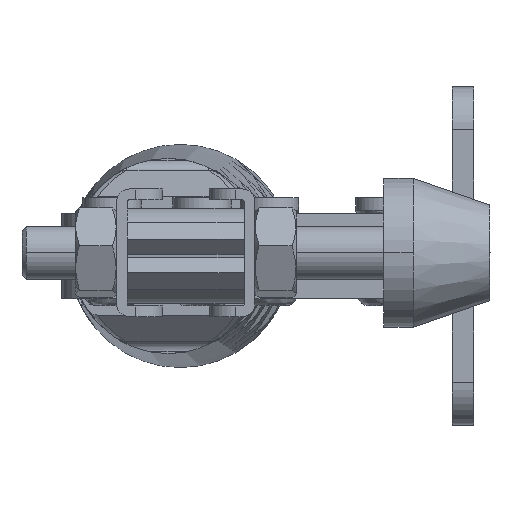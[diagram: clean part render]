
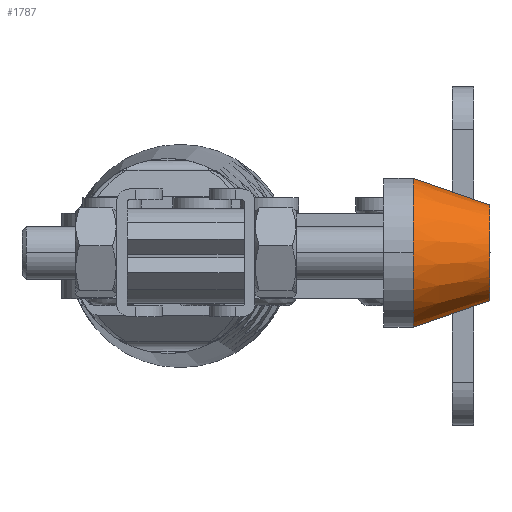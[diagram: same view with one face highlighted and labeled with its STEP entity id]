
A CAD part, left-side view. The second image highlights one B-rep face of the part: STEP entity #1787.
In plain terms, the highlighted conical face has half-angle 19.148 degrees and reference radius 7 mm.
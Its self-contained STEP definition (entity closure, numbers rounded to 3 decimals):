
#89 = DIRECTION ( 'NONE',  ( -1., 0., 0. ) ) ;
#144 = CARTESIAN_POINT ( 'NONE',  ( -7.2, 0., 0. ) ) ;
#684 = CARTESIAN_POINT ( 'NONE',  ( 0., 0., 0. ) ) ;
#737 = AXIS2_PLACEMENT_3D ( 'NONE', #13382, #89, #2826 ) ;
#886 = ORIENTED_EDGE ( 'NONE', *, *, #10159, .F. ) ;
#1077 = AXIS2_PLACEMENT_3D ( 'NONE', #684, #6595, #11154 ) ;
#1166 = VERTEX_POINT ( 'NONE', #5223 ) ;
#1787 = ADVANCED_FACE ( 'NONE', ( #8981 ), #14810, .T. ) ;
#1795 = DIRECTION ( 'NONE',  ( 0., 0., 1. ) ) ;
#1815 = CARTESIAN_POINT ( 'NONE',  ( 0., 0., 4.5 ) ) ;
#2388 = CARTESIAN_POINT ( 'NONE',  ( -7.2, 0., -7. ) ) ;
#2826 = DIRECTION ( 'NONE',  ( 0., -1., 0. ) ) ;
#3727 = LINE ( 'NONE', #12653, #7610 ) ;
#5223 = CARTESIAN_POINT ( 'NONE',  ( -7.2, -7., 0. ) ) ;
#5408 = DIRECTION ( 'NONE',  ( -0.945, 0., 0.328 ) ) ;
#6531 = EDGE_CURVE ( 'NONE', #14227, #1166, #10029, .T. ) ;
#6595 = DIRECTION ( 'NONE',  ( -1., 0., 0. ) ) ;
#6863 = ORIENTED_EDGE ( 'NONE', *, *, #17608, .T. ) ;
#7370 = AXIS2_PLACEMENT_3D ( 'NONE', #144, #16151, #1795 ) ;
#7549 = VERTEX_POINT ( 'NONE', #9355 ) ;
#7610 = VECTOR ( 'NONE', #14205, 1000. ) ;
#8634 = VERTEX_POINT ( 'NONE', #1815 ) ;
#8981 = FACE_OUTER_BOUND ( 'NONE', #15434, .T. ) ;
#9355 = CARTESIAN_POINT ( 'NONE',  ( 0., 0., -4.5 ) ) ;
#9781 = CARTESIAN_POINT ( 'NONE',  ( -7.2, 0., 7. ) ) ;
#10029 = CIRCLE ( 'NONE', #737, 7. ) ;
#10159 = EDGE_CURVE ( 'NONE', #7549, #14227, #3727, .T. ) ;
#10758 = EDGE_CURVE ( 'NONE', #1166, #15894, #16922, .T. ) ;
#11154 = DIRECTION ( 'NONE',  ( 0., 0., 1. ) ) ;
#12223 = CARTESIAN_POINT ( 'NONE',  ( -7.2, 0., 7. ) ) ;
#12246 = VECTOR ( 'NONE', #5408, 1000. ) ;
#12653 = CARTESIAN_POINT ( 'NONE',  ( -7.2, 0., -7. ) ) ;
#13208 = DIRECTION ( 'NONE',  ( -1., 0., 0. ) ) ;
#13382 = CARTESIAN_POINT ( 'NONE',  ( -7.2, 0., 0. ) ) ;
#14062 = ORIENTED_EDGE ( 'NONE', *, *, #10758, .F. ) ;
#14205 = DIRECTION ( 'NONE',  ( -0.945, 0., -0.328 ) ) ;
#14227 = VERTEX_POINT ( 'NONE', #2388 ) ;
#14479 = DIRECTION ( 'NONE',  ( 0., -1., 0. ) ) ;
#14565 = CARTESIAN_POINT ( 'NONE',  ( -7.2, 0., 0. ) ) ;
#14810 = CONICAL_SURFACE ( 'NONE', #7370, 7., 0.334 ) ;
#15061 = AXIS2_PLACEMENT_3D ( 'NONE', #14565, #13208, #14479 ) ;
#15116 = EDGE_CURVE ( 'NONE', #7549, #8634, #19035, .T. ) ;
#15434 = EDGE_LOOP ( 'NONE', ( #886, #17575, #6863, #14062, #15484 ) ) ;
#15484 = ORIENTED_EDGE ( 'NONE', *, *, #6531, .F. ) ;
#15878 = LINE ( 'NONE', #9781, #12246 ) ;
#15894 = VERTEX_POINT ( 'NONE', #12223 ) ;
#16151 = DIRECTION ( 'NONE',  ( -1., 0., 0. ) ) ;
#16922 = CIRCLE ( 'NONE', #15061, 7. ) ;
#17575 = ORIENTED_EDGE ( 'NONE', *, *, #15116, .T. ) ;
#17608 = EDGE_CURVE ( 'NONE', #8634, #15894, #15878, .T. ) ;
#19035 = CIRCLE ( 'NONE', #1077, 4.5 ) ;
